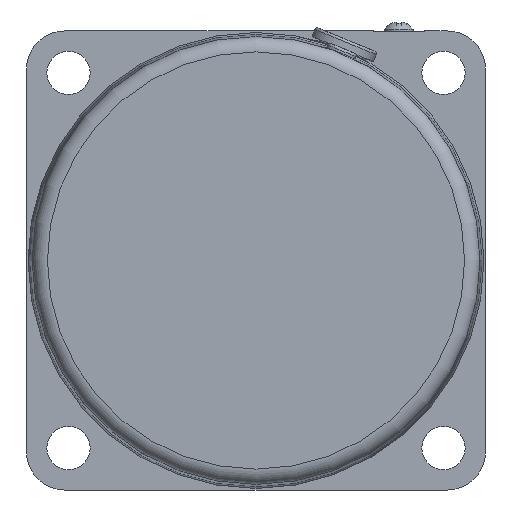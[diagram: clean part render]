
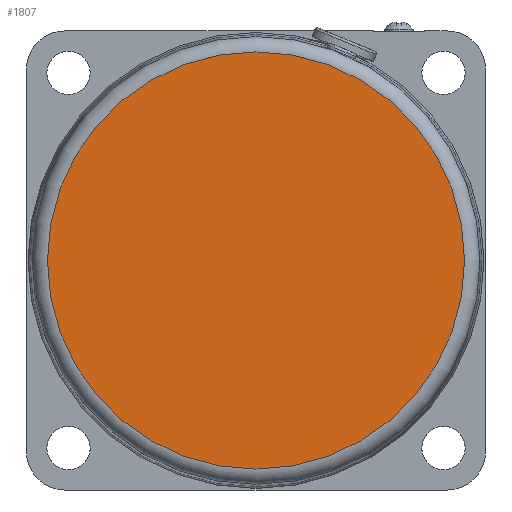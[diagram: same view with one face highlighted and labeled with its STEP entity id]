
A CAD part, left-side view. The second image highlights one B-rep face of the part: STEP entity #1807.
In plain terms, the highlighted planar face has unit normal (-1, 0, 0).
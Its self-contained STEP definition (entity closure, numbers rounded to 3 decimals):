
#222=CIRCLE('',#1954,40.9);
#313=FACE_OUTER_BOUND('',#423,.T.);
#423=EDGE_LOOP('',(#1310));
#834=VERTEX_POINT('',#2754);
#1013=EDGE_CURVE('',#834,#834,#222,.T.);
#1310=ORIENTED_EDGE('',*,*,#1013,.F.);
#1734=PLANE('',#1958);
#1807=ADVANCED_FACE('',(#313),#1734,.T.);
#1954=AXIS2_PLACEMENT_3D('',#2755,#2210,#2211);
#1958=AXIS2_PLACEMENT_3D('',#2761,#2219,#2220);
#2210=DIRECTION('center_axis',(1.,0.,0.));
#2211=DIRECTION('ref_axis',(0.,1.,0.));
#2219=DIRECTION('center_axis',(-1.,0.,0.));
#2220=DIRECTION('ref_axis',(0.,1.,0.));
#2754=CARTESIAN_POINT('',(-38.5,-40.9,0.));
#2755=CARTESIAN_POINT('Origin',(-38.5,0.,
0.));
#2761=CARTESIAN_POINT('Origin',(-38.5,0.,
0.));
